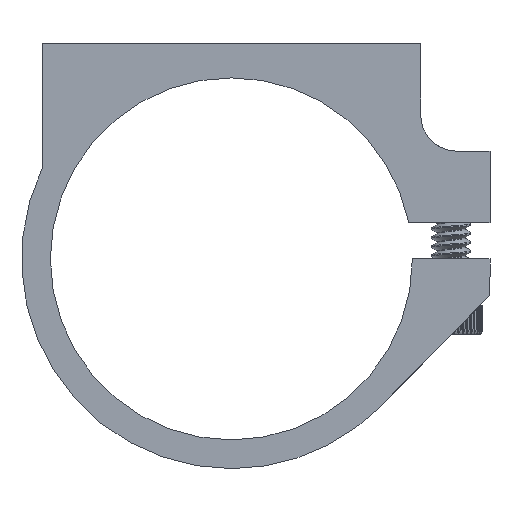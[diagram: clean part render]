
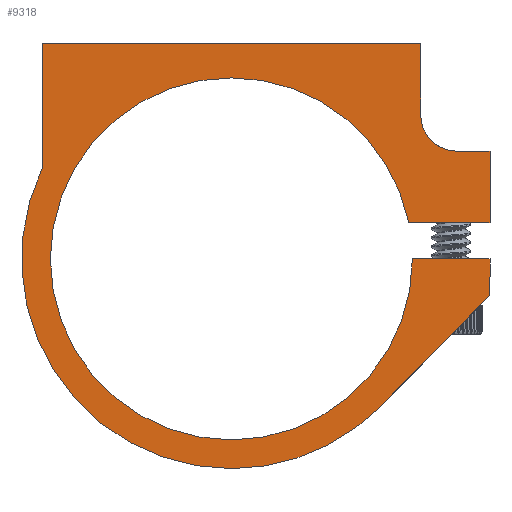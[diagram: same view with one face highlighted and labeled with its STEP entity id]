
A CAD part, front view. The second image highlights one B-rep face of the part: STEP entity #9318.
In plain terms, the highlighted planar face has unit normal (0, -1, 0).
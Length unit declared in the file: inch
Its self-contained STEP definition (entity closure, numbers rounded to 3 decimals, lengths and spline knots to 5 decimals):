
#23 = CARTESIAN_POINT ( 'NONE',  ( 0.52103, 0., -0.51119 ) ) ;
#499 = CARTESIAN_POINT ( 'NONE',  ( 0.784, 0., 0.5 ) ) ;
#809 = ORIENTED_EDGE ( 'NONE', *, *, #27350, .F. ) ;
#1185 = ORIENTED_EDGE ( 'NONE', *, *, #13327, .F. ) ;
#2005 = LINE ( 'NONE', #7686, #31305 ) ;
#2308 = DIRECTION ( 'NONE',  ( 0., 0., 1. ) ) ;
#3221 = CARTESIAN_POINT ( 'NONE',  ( 0., 0., 0. ) ) ;
#3312 = AXIS2_PLACEMENT_3D ( 'NONE', #15379, #4356, #19381 ) ;
#3671 = EDGE_LOOP ( 'NONE', ( #31950, #33082, #38726, #1185, #42841, #14304, #45133, #43968, #37814, #23635, #8119, #809, #9158, #16591, #16711 ) ) ;
#4167 = CARTESIAN_POINT ( 'NONE',  ( 0.62992, 0., 0. ) ) ;
#4248 = VECTOR ( 'NONE', #21360, 39.37008 ) ;
#4344 = CIRCLE ( 'NONE', #10511, 0.72992 ) ;
#4356 = DIRECTION ( 'NONE',  ( 0., 1., 0. ) ) ;
#5450 = LINE ( 'NONE', #37512, #28736 ) ;
#6334 = CIRCLE ( 'NONE', #45078, 0.125 ) ;
#6446 = CIRCLE ( 'NONE', #18848, 0.72992 ) ;
#7686 = CARTESIAN_POINT ( 'NONE',  ( 0.89992, 0., 0. ) ) ;
#8119 = ORIENTED_EDGE ( 'NONE', *, *, #44447, .F. ) ;
#8838 = LINE ( 'NONE', #23, #39803 ) ;
#8905 = CARTESIAN_POINT ( 'NONE',  ( 0.659, 0., 0.75 ) ) ;
#8989 = DIRECTION ( 'NONE',  ( 0., 0., 1. ) ) ;
#9158 = ORIENTED_EDGE ( 'NONE', *, *, #27411, .F. ) ;
#9318 = ADVANCED_FACE ( 'NONE', ( #23354 ), #25020, .F. ) ;
#9903 = CIRCLE ( 'NONE', #44052, 0.62992 ) ;
#10511 = AXIS2_PLACEMENT_3D ( 'NONE', #47951, #13655, #40441 ) ;
#10837 = CARTESIAN_POINT ( 'NONE',  ( 0.89992, 0., 0. ) ) ;
#10874 = DIRECTION ( 'NONE',  ( 0., 0., -1. ) ) ;
#10949 = EDGE_CURVE ( 'NONE', #37696, #20600, #25091, .T. ) ;
#12494 = CARTESIAN_POINT ( 'NONE',  ( 0., 0., 0. ) ) ;
#12660 = DIRECTION ( 'NONE',  ( 0., 1., 0. ) ) ;
#12780 = DIRECTION ( 'NONE',  ( 0., 0., -1. ) ) ;
#13245 = VERTEX_POINT ( 'NONE', #16127 ) ;
#13283 = EDGE_CURVE ( 'NONE', #48762, #37696, #19577, .T. ) ;
#13327 = EDGE_CURVE ( 'NONE', #36298, #18093, #15396, .T. ) ;
#13655 = DIRECTION ( 'NONE',  ( 0., 1., 0. ) ) ;
#13983 = DIRECTION ( 'NONE',  ( 0., 1., 0. ) ) ;
#14105 = CARTESIAN_POINT ( 'NONE',  ( 0.61739, 0., 0.125 ) ) ;
#14233 = CARTESIAN_POINT ( 'NONE',  ( -0.659, 0., 0. ) ) ;
#14304 = ORIENTED_EDGE ( 'NONE', *, *, #43310, .F. ) ;
#15379 = CARTESIAN_POINT ( 'NONE',  ( 0., 0., 0. ) ) ;
#15396 = LINE ( 'NONE', #35015, #34479 ) ;
#16127 = CARTESIAN_POINT ( 'NONE',  ( 0.52103, 0., -0.51119 ) ) ;
#16265 = CARTESIAN_POINT ( 'NONE',  ( 0., 0., 0. ) ) ;
#16474 = CARTESIAN_POINT ( 'NONE',  ( 0.659, 0., 0. ) ) ;
#16591 = ORIENTED_EDGE ( 'NONE', *, *, #26521, .F. ) ;
#16711 = ORIENTED_EDGE ( 'NONE', *, *, #25873, .F. ) ;
#17285 = VECTOR ( 'NONE', #21295, 39.37008 ) ;
#17326 = LINE ( 'NONE', #14233, #31101 ) ;
#17395 = CARTESIAN_POINT ( 'NONE',  ( 0., 0., 0.62992 ) ) ;
#17699 = AXIS2_PLACEMENT_3D ( 'NONE', #12494, #12660, #8989 ) ;
#18093 = VERTEX_POINT ( 'NONE', #14105 ) ;
#18401 = DIRECTION ( 'NONE',  ( 0., 1., 0. ) ) ;
#18848 = AXIS2_PLACEMENT_3D ( 'NONE', #3221, #18401, #37546 ) ;
#19381 = DIRECTION ( 'NONE',  ( 0., 0., 1. ) ) ;
#19577 = CIRCLE ( 'NONE', #17699, 0.62992 ) ;
#20115 = DIRECTION ( 'NONE',  ( 0., 0., 1. ) ) ;
#20600 = VERTEX_POINT ( 'NONE', #17395 ) ;
#21295 = DIRECTION ( 'NONE',  ( 1., 0., 0. ) ) ;
#21338 = CARTESIAN_POINT ( 'NONE',  ( 0., 0., 0. ) ) ;
#21360 = DIRECTION ( 'NONE',  ( 1., 0., 0. ) ) ;
#22252 = CARTESIAN_POINT ( 'NONE',  ( 0.784, 0., 0.375 ) ) ;
#23269 = EDGE_CURVE ( 'NONE', #38996, #48153, #17326, .T. ) ;
#23354 = FACE_OUTER_BOUND ( 'NONE', #3671, .T. ) ;
#23372 = LINE ( 'NONE', #48464, #4248 ) ;
#23434 = AXIS2_PLACEMENT_3D ( 'NONE', #21338, #13983, #2308 ) ;
#23522 = CARTESIAN_POINT ( 'NONE',  ( 0., 0., -0.62992 ) ) ;
#23635 = ORIENTED_EDGE ( 'NONE', *, *, #23269, .T. ) ;
#23655 = EDGE_CURVE ( 'NONE', #38996, #46532, #23372, .T. ) ;
#24053 = DIRECTION ( 'NONE',  ( -1., 0., 0. ) ) ;
#25020 = PLANE ( 'NONE',  #23434 ) ;
#25091 = CIRCLE ( 'NONE', #3312, 0.62992 ) ;
#25873 = EDGE_CURVE ( 'NONE', #48762, #33081, #42843, .T. ) ;
#26068 = DIRECTION ( 'NONE',  ( 0., 0., -1. ) ) ;
#26521 = EDGE_CURVE ( 'NONE', #33081, #47188, #31013, .T. ) ;
#26663 = CARTESIAN_POINT ( 'NONE',  ( 0.89992, 0., 0. ) ) ;
#27350 = EDGE_CURVE ( 'NONE', #13245, #43437, #6446, .T. ) ;
#27411 = EDGE_CURVE ( 'NONE', #47188, #13245, #8838, .T. ) ;
#28232 = DIRECTION ( 'NONE',  ( 0., -1., 0. ) ) ;
#28736 = VECTOR ( 'NONE', #37341, 39.37008 ) ;
#30152 = CARTESIAN_POINT ( 'NONE',  ( 0.89992, 0., 0.125 ) ) ;
#30783 = CARTESIAN_POINT ( 'NONE',  ( 0.659, 0., 0.5 ) ) ;
#31013 = LINE ( 'NONE', #10837, #33360 ) ;
#31101 = VECTOR ( 'NONE', #10874, 39.37008 ) ;
#31305 = VECTOR ( 'NONE', #46150, 39.37008 ) ;
#31950 = ORIENTED_EDGE ( 'NONE', *, *, #13283, .T. ) ;
#32495 = EDGE_CURVE ( 'NONE', #46532, #40183, #37504, .T. ) ;
#32666 = VERTEX_POINT ( 'NONE', #22252 ) ;
#33081 = VERTEX_POINT ( 'NONE', #26663 ) ;
#33082 = ORIENTED_EDGE ( 'NONE', *, *, #10949, .T. ) ;
#33360 = VECTOR ( 'NONE', #26068, 39.37008 ) ;
#33455 = CARTESIAN_POINT ( 'NONE',  ( 0.89992, 0., -0.125 ) ) ;
#34479 = VECTOR ( 'NONE', #24053, 39.37008 ) ;
#34706 = DIRECTION ( 'NONE',  ( -0.7, 0., -0.714 ) ) ;
#35015 = CARTESIAN_POINT ( 'NONE',  ( 0., 0., 0.125 ) ) ;
#35728 = EDGE_CURVE ( 'NONE', #20600, #18093, #9903, .T. ) ;
#36298 = VERTEX_POINT ( 'NONE', #30152 ) ;
#37310 = EDGE_CURVE ( 'NONE', #40183, #32666, #6334, .T. ) ;
#37341 = DIRECTION ( 'NONE',  ( 1., 0., 0. ) ) ;
#37400 = CARTESIAN_POINT ( 'NONE',  ( -0.659, 0., 0.31385 ) ) ;
#37504 = LINE ( 'NONE', #16474, #42812 ) ;
#37512 = CARTESIAN_POINT ( 'NONE',  ( 0., 0., 0.375 ) ) ;
#37546 = DIRECTION ( 'NONE',  ( 0., 0., 1. ) ) ;
#37696 = VERTEX_POINT ( 'NONE', #23522 ) ;
#37814 = ORIENTED_EDGE ( 'NONE', *, *, #23655, .F. ) ;
#38608 = CARTESIAN_POINT ( 'NONE',  ( -0.659, 0., 0.75 ) ) ;
#38726 = ORIENTED_EDGE ( 'NONE', *, *, #35728, .T. ) ;
#38996 = VERTEX_POINT ( 'NONE', #38608 ) ;
#39803 = VECTOR ( 'NONE', #34706, 39.37008 ) ;
#40183 = VERTEX_POINT ( 'NONE', #30783 ) ;
#40441 = DIRECTION ( 'NONE',  ( 0., 0., 1. ) ) ;
#41148 = EDGE_CURVE ( 'NONE', #43298, #36298, #2005, .T. ) ;
#42812 = VECTOR ( 'NONE', #12780, 39.37008 ) ;
#42841 = ORIENTED_EDGE ( 'NONE', *, *, #41148, .F. ) ;
#42843 = LINE ( 'NONE', #47572, #17285 ) ;
#42866 = DIRECTION ( 'NONE',  ( 0., 1., 0. ) ) ;
#43286 = DIRECTION ( 'NONE',  ( 0., 0., 1. ) ) ;
#43298 = VERTEX_POINT ( 'NONE', #49313 ) ;
#43310 = EDGE_CURVE ( 'NONE', #32666, #43298, #5450, .T. ) ;
#43437 = VERTEX_POINT ( 'NONE', #45953 ) ;
#43968 = ORIENTED_EDGE ( 'NONE', *, *, #32495, .F. ) ;
#44052 = AXIS2_PLACEMENT_3D ( 'NONE', #16265, #42866, #20115 ) ;
#44447 = EDGE_CURVE ( 'NONE', #43437, #48153, #4344, .T. ) ;
#45078 = AXIS2_PLACEMENT_3D ( 'NONE', #499, #28232, #43286 ) ;
#45133 = ORIENTED_EDGE ( 'NONE', *, *, #37310, .F. ) ;
#45953 = CARTESIAN_POINT ( 'NONE',  ( 0., 0., -0.72992 ) ) ;
#46150 = DIRECTION ( 'NONE',  ( 0., 0., -1. ) ) ;
#46532 = VERTEX_POINT ( 'NONE', #8905 ) ;
#47188 = VERTEX_POINT ( 'NONE', #33455 ) ;
#47572 = CARTESIAN_POINT ( 'NONE',  ( 0., 0., 0. ) ) ;
#47951 = CARTESIAN_POINT ( 'NONE',  ( 0., 0., 0. ) ) ;
#48153 = VERTEX_POINT ( 'NONE', #37400 ) ;
#48464 = CARTESIAN_POINT ( 'NONE',  ( 0., 0., 0.75 ) ) ;
#48762 = VERTEX_POINT ( 'NONE', #4167 ) ;
#49313 = CARTESIAN_POINT ( 'NONE',  ( 0.89992, 0., 0.375 ) ) ;
